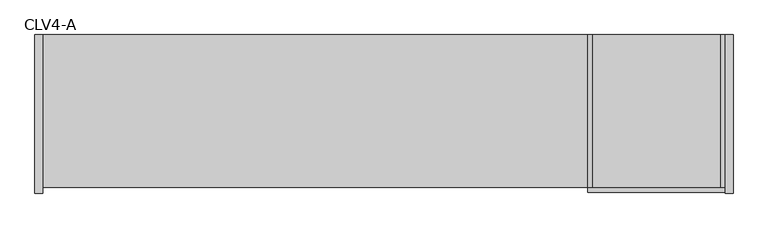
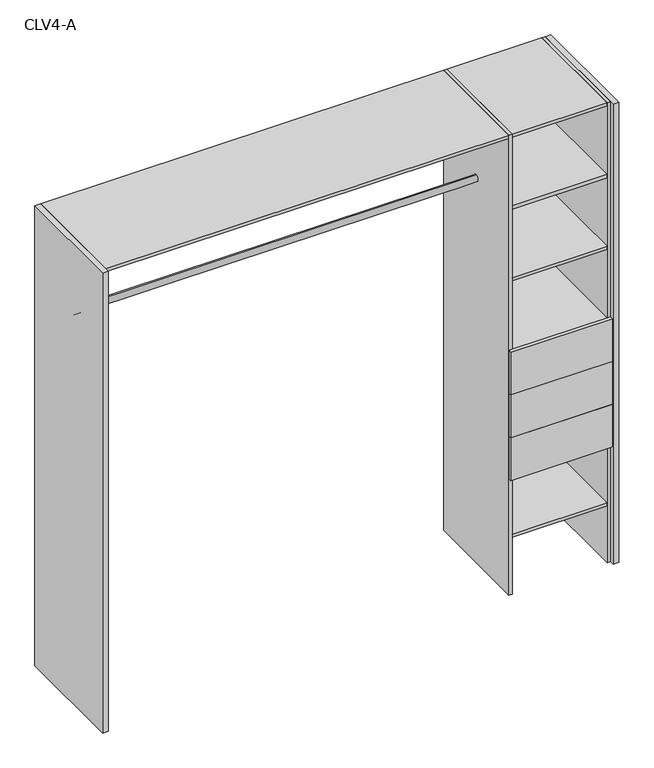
"""IFC4 building model written with IfcOpenShell, lengths in millimetres: furniture geometry, Closet 1estantes-1tubos_2 laterales : CLV4-A."""

from ifc_helpers import new_model, si_unit, point, frame, frame_2d, origin, origin_with_axes, place, context, project, spatial, polyline, circle_curve, trimmed, segment, composite_curve, outline, extrude, source, transform, mapped, element, save


def clv4_a_122e25ef(model_context):
    return source(origin(), model_context, "Body", "SweptSolid", [
        extrude(outline(polyline([(-2007.211877, 80.0), (-2032.211877, 80.0), (-2032.211877, 600.0), (-2007.211877, 600.0), (-2007.211877, 80.0)])), origin_with_axes(), (0.0, 0.0, 1.0), 2150.0),
        extrude(outline(polyline([(250.0, 80.0), (225.0, 80.0), (225.0, 600.0), (250.0, 600.0), (250.0, 80.0)])), origin_with_axes(), (0.0, 0.0, 1.0), 2150.0),
        extrude(outline(polyline([(225.0, 100.0), (210.0, 100.0), (210.0, 600.0), (225.0, 600.0), (225.0, 100.0)])), origin_with_axes(), (0.0, 0.0, 1.0), 2150.0),
        extrude(outline(polyline([(-210.0, 100.0), (-225.0, 100.0), (-225.0, 600.0), (-210.0, 600.0), (-210.0, 100.0)])), origin_with_axes(), (0.0, 0.0, 1.0), 2150.0),
        extrude(outline(polyline([(225.0, 100.0), (225.0, 85.0), (-225.0, 85.0), (-225.0, 100.0), (225.0, 100.0)])), frame((0.0, 0.0, 945.0), z_axis=(0.0, 0.0, 1.0), x_axis=(1.0, 0.0, 0.0)), (0.0, 0.0, 1.0), 200.0),
        extrude(outline(polyline([(225.0, 100.0), (225.0, 85.0), (-225.0, 85.0), (-225.0, 100.0), (225.0, 100.0)])), frame((0.0, 0.0, 745.0), z_axis=(0.0, 0.0, 1.0), x_axis=(1.0, 0.0, 0.0)), (0.0, 0.0, 1.0), 200.0),
        extrude(outline(polyline([(225.0, 100.0), (225.0, 85.0), (-225.0, 85.0), (-225.0, 100.0), (225.0, 100.0)])), frame((0.0, 0.0, 545.0), z_axis=(0.0, 0.0, 1.0), x_axis=(1.0, 0.0, 0.0)), (0.0, 0.0, 1.0), 200.0),
        extrude(outline(polyline([(210.0, 100.0), (-210.0, 100.0), (-210.0, 600.0), (210.0, 600.0), (210.0, 100.0)])), frame((0.0, 0.0, 1130.0), z_axis=(0.0, 0.0, 1.0), x_axis=(1.0, 0.0, 0.0)), (0.0, 0.0, 1.0), 15.0),
        extrude(outline(composite_curve([segment(trimmed(circle_curve(frame_2d((350.0, 1800.0)), 15.0), [point((350.0, 1815.0))], [point((350.0, 1785.0))], False, "CARTESIAN"), True, "CONTINUOUS"), segment(trimmed(circle_curve(frame_2d((350.0, 1800.0)), 15.0), [point((350.0, 1785.0))], [point((350.0, 1815.0))], False, "CARTESIAN"), True, "CONTINUOUS")], self_intersect=False)), frame((-2007.211877, 0.0, 0.0), z_axis=(1.0, 0.0, 0.0), x_axis=(0.0, 1.0, 0.0)), (0.0, 0.0, 1.0), 1782.211877),
        extrude(outline(composite_curve([segment(trimmed(circle_curve(frame_2d((350.0, 1800.0)), 15.0), [point((350.0, 1815.0))], [point((350.0, 1785.0))], False, "CARTESIAN"), True, "CONTINUOUS"), segment(trimmed(circle_curve(frame_2d((350.0, 1800.0)), 15.0), [point((350.0, 1785.0))], [point((350.0, 1815.0))], False, "CARTESIAN"), True, "CONTINUOUS")], self_intersect=False)), frame((-2007.211877, 0.0, 0.0), z_axis=(1.0, 0.0, 0.0), x_axis=(0.0, 1.0, 0.0)), (0.0, 0.0, 1.0), 1782.211877),
        extrude(outline(polyline([(210.0, 100.0), (-210.0, 100.0), (-210.0, 600.0), (210.0, 600.0), (210.0, 100.0)])), frame((0.0, 0.0, 265.0), z_axis=(0.0, 0.0, 1.0), x_axis=(1.0, 0.0, 0.0)), (0.0, 0.0, 1.0), 15.0),
        extrude(outline(polyline([(210.0, 100.0), (-210.0, 100.0), (-210.0, 600.0), (210.0, 600.0), (210.0, 100.0)])), frame((0.0, 0.0, 545.0), z_axis=(0.0, 0.0, 1.0), x_axis=(1.0, 0.0, 0.0)), (0.0, 0.0, 1.0), 15.0),
        extrude(outline(polyline([(210.0, 100.0), (-210.0, 100.0), (-210.0, 600.0), (210.0, 600.0), (210.0, 100.0)])), frame((0.0, 0.0, 1465.0), z_axis=(0.0, 0.0, 1.0), x_axis=(1.0, 0.0, 0.0)), (0.0, 0.0, 1.0), 15.0),
        extrude(outline(polyline([(210.0, 100.0), (-210.0, 100.0), (-210.0, 600.0), (210.0, 600.0), (210.0, 100.0)])), frame((0.0, 0.0, 1800.0), z_axis=(0.0, 0.0, 1.0), x_axis=(1.0, 0.0, 0.0)), (0.0, 0.0, 1.0), 15.0),
        extrude(outline(polyline([(-210.0, 100.0), (-2007.211877, 100.0), (-2007.211877, 600.0), (-210.0, 600.0), (-210.0, 100.0)])), frame((0.0, 0.0, 2135.0), z_axis=(0.0, 0.0, 1.0), x_axis=(1.0, 0.0, 0.0)), (0.0, 0.0, 1.0), 15.0),
        extrude(outline(polyline([(210.0, 100.0), (-210.0, 100.0), (-210.0, 600.0), (210.0, 600.0), (210.0, 100.0)])), frame((0.0, 0.0, 2135.0), z_axis=(0.0, 0.0, 1.0), x_axis=(1.0, 0.0, 0.0)), (0.0, 0.0, 1.0), 15.0),
    ])


if __name__ == "__main__":
    model = new_model("IFC4")
    model_context = context("Model", 3, world=origin())
    ifc_project = project(units=[si_unit("LENGTHUNIT", "METRE", prefix="MILLI")], contexts=[model_context])
    site = spatial("IfcSite", under=ifc_project)
    building = spatial("IfcBuilding", under=site)
    placement = place(None, origin())
    clv4_a_shape = clv4_a_122e25ef(model_context)
    element("IfcFurniture", 1, ObjectType="Closet 1estantes-1tubos_2 laterales : CLV4-A", at=placement, inside=building, context=model_context, shape_type="MappedRepresentation", body=[
        mapped(clv4_a_shape, transform((0.0, 0.0, 0.0), x_axis=(1.0, 0.0, 0.0), y_axis=(0.0, 1.0, 0.0), z_axis=(0.0, 0.0, 1.0))),
    ])
    save(model, "model.ifc")
